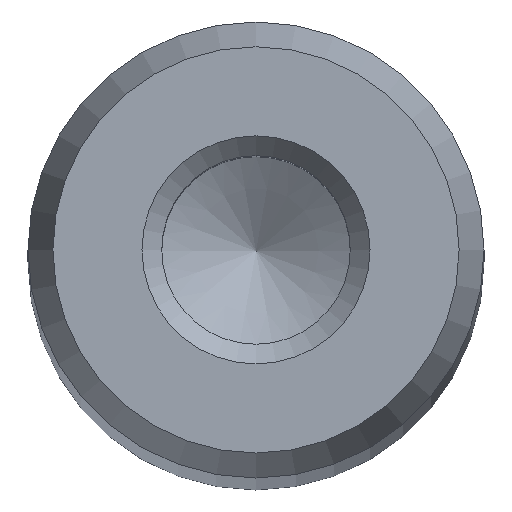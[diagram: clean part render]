
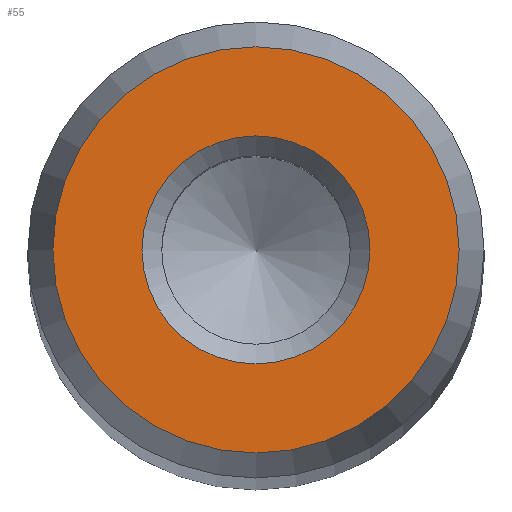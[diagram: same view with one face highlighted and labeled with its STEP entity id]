
A CAD part, top view. The second image highlights one B-rep face of the part: STEP entity #55.
In plain terms, the highlighted planar face has unit normal (0, 0, 1).
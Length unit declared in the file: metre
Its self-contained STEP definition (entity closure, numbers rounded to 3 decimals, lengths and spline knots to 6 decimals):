
#55 = ADVANCED_FACE( '', ( #116, #117 ), #118, .T. );
#116 = FACE_OUTER_BOUND( '', #175, .T. );
#117 = FACE_BOUND( '', #176, .T. );
#118 = PLANE( '', #177 );
#175 = EDGE_LOOP( '', ( #246 ) );
#176 = EDGE_LOOP( '', ( #247 ) );
#177 = AXIS2_PLACEMENT_3D( '', #248, #249, #250 );
#246 = ORIENTED_EDGE( '', *, *, #280, .T. );
#247 = ORIENTED_EDGE( '', *, *, #290, .T. );
#248 = CARTESIAN_POINT( '', ( 0., 0., 0.152 ) );
#249 = DIRECTION( '', ( 0., 0., 1. ) );
#250 = DIRECTION( '', ( 1., 0., 0. ) );
#280 = EDGE_CURVE( '', #314, #314, #315, .T. );
#290 = EDGE_CURVE( '', #327, #327, #328, .T. );
#314 = VERTEX_POINT( '', #351 );
#315 = CIRCLE( '', #352, 0.004454 );
#327 = VERTEX_POINT( '', #364 );
#328 = CIRCLE( '', #365, 0.0025 );
#351 = CARTESIAN_POINT( '', ( 0.004454, 0., 0.152 ) );
#352 = AXIS2_PLACEMENT_3D( '', #391, #392, #393 );
#364 = CARTESIAN_POINT( '', ( 0.0025, 0., 0.152 ) );
#365 = AXIS2_PLACEMENT_3D( '', #403, #404, #405 );
#391 = CARTESIAN_POINT( '', ( 0., 0., 0.152 ) );
#392 = DIRECTION( '', ( 0., 0., 1. ) );
#393 = DIRECTION( '', ( 1., 0., 0. ) );
#403 = CARTESIAN_POINT( '', ( 0., 0., 0.152 ) );
#404 = DIRECTION( '', ( 0., 0., -1. ) );
#405 = DIRECTION( '', ( 1., 0., 0. ) );
